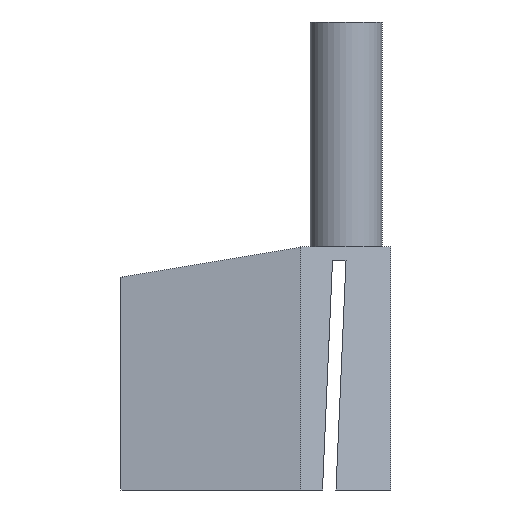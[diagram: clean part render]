
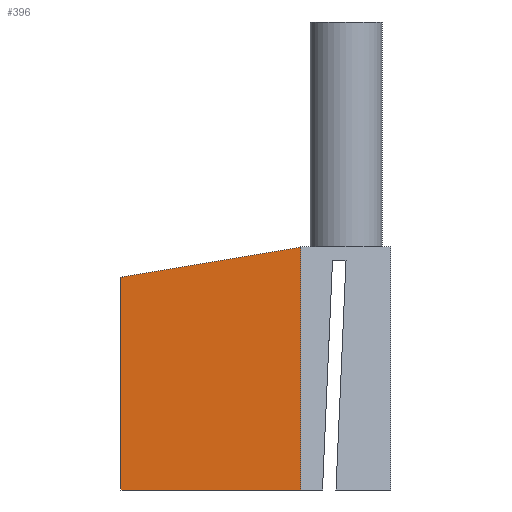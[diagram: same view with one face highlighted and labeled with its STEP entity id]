
A CAD part, left-side view. The second image highlights one B-rep face of the part: STEP entity #396.
In plain terms, the highlighted planar face has unit normal (-1, 0, 0).
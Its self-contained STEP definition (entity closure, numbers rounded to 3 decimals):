
#24=FACE_OUTER_BOUND('',#47,.T.);
#47=EDGE_LOOP('',(#268,#269,#270,#271));
#73=LINE('',#574,#124);
#75=LINE('',#578,#126);
#76=LINE('',#580,#127);
#77=LINE('',#581,#128);
#124=VECTOR('',#465,10.);
#126=VECTOR('',#469,10.);
#127=VECTOR('',#470,10.);
#128=VECTOR('',#471,10.);
#175=VERTEX_POINT('',#571);
#176=VERTEX_POINT('',#573);
#177=VERTEX_POINT('',#577);
#178=VERTEX_POINT('',#579);
#211=EDGE_CURVE('',#176,#175,#73,.T.);
#213=EDGE_CURVE('',#177,#175,#75,.T.);
#214=EDGE_CURVE('',#178,#177,#76,.T.);
#215=EDGE_CURVE('',#178,#176,#77,.T.);
#268=ORIENTED_EDGE('',*,*,#211,.T.);
#269=ORIENTED_EDGE('',*,*,#213,.F.);
#270=ORIENTED_EDGE('',*,*,#214,.F.);
#271=ORIENTED_EDGE('',*,*,#215,.T.);
#375=PLANE('',#433);
#396=ADVANCED_FACE('',(#24),#375,.F.);
#433=AXIS2_PLACEMENT_3D('',#576,#467,#468);
#465=DIRECTION('',(0.,0.986,-0.165));
#467=DIRECTION('center_axis',(1.,0.,0.));
#468=DIRECTION('ref_axis',(0.,0.,1.));
#469=DIRECTION('',(0.,0.,1.));
#470=DIRECTION('',(0.,1.,0.));
#471=DIRECTION('',(0.,0.,1.));
#571=CARTESIAN_POINT('',(-2.5,50.,-6.705));
#573=CARTESIAN_POINT('',(-2.5,10.,0.));
#574=CARTESIAN_POINT('',(-2.5,53.856,-7.352));
#576=CARTESIAN_POINT('Origin',(-2.5,50.,-54.));
#577=CARTESIAN_POINT('',(-2.5,50.,-54.));
#578=CARTESIAN_POINT('',(-2.5,50.,-27.));
#579=CARTESIAN_POINT('',(-2.5,10.,-54.));
#580=CARTESIAN_POINT('',(-2.5,35.,-54.));
#581=CARTESIAN_POINT('',(-2.5,10.,-54.));
